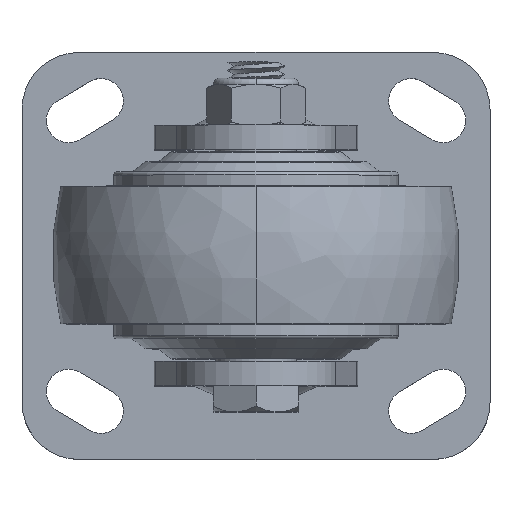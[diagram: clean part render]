
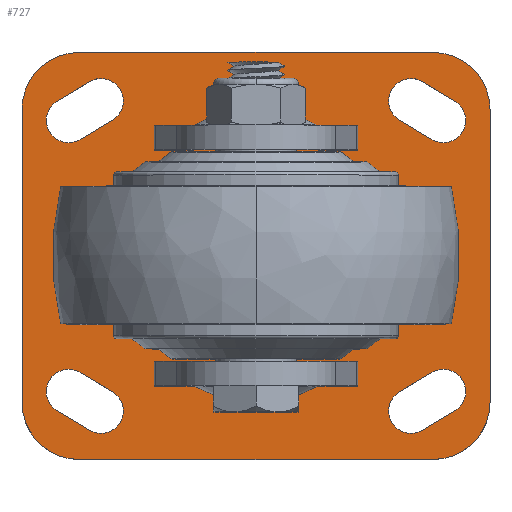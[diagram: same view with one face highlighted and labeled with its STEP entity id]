
A CAD part, top view. The second image highlights one B-rep face of the part: STEP entity #727.
In plain terms, the highlighted planar face has unit normal (0, 0, 1).
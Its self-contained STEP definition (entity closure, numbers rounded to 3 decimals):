
#165=DIRECTION('',(-1.,0.,0.));
#166=VECTOR('',#165,87.);
#167=CARTESIAN_POINT('',(43.5,50.,8.));
#168=LINE('',#167,#166);
#169=CARTESIAN_POINT('',(43.5,36.,8.));
#170=DIRECTION('',(0.,0.,1.));
#171=DIRECTION('',(1.,0.,0.));
#172=AXIS2_PLACEMENT_3D('',#169,#170,#171);
#174=DIRECTION('',(0.,1.,0.));
#175=VECTOR('',#174,72.);
#176=CARTESIAN_POINT('',(57.5,-36.,8.));
#177=LINE('',#176,#175);
#178=CARTESIAN_POINT('',(43.5,-36.,8.));
#179=DIRECTION('',(0.,0.,1.));
#180=DIRECTION('',(0.,-1.,0.));
#181=AXIS2_PLACEMENT_3D('',#178,#179,#180);
#183=DIRECTION('',(1.,0.,0.));
#184=VECTOR('',#183,87.);
#185=CARTESIAN_POINT('',(-43.5,-50.,8.));
#186=LINE('',#185,#184);
#187=CARTESIAN_POINT('',(-43.5,-36.,8.));
#188=DIRECTION('',(0.,0.,1.));
#189=DIRECTION('',(-1.,0.,0.));
#190=AXIS2_PLACEMENT_3D('',#187,#188,#189);
#192=DIRECTION('',(0.,-1.,0.));
#193=VECTOR('',#192,72.);
#194=CARTESIAN_POINT('',(-57.5,36.,8.));
#195=LINE('',#194,#193);
#196=CARTESIAN_POINT('',(-43.5,36.,8.));
#197=DIRECTION('',(0.,0.,1.));
#198=DIRECTION('',(0.,1.,0.));
#199=AXIS2_PLACEMENT_3D('',#196,#197,#198);
#201=CARTESIAN_POINT('',(46.038,33.338,8.));
#202=DIRECTION('',(0.,0.,-1.));
#203=DIRECTION('',(0.514,0.857,0.));
#204=AXIS2_PLACEMENT_3D('',#201,#202,#203);
#206=DIRECTION('',(0.857,-0.514,0.));
#207=VECTOR('',#206,9.257);
#208=CARTESIAN_POINT('',(40.93,42.816,8.));
#209=LINE('',#208,#207);
#210=CARTESIAN_POINT('',(38.1,38.1,8.));
#211=DIRECTION('',(0.,0.,-1.));
#212=DIRECTION('',(-0.514,-0.857,0.));
#213=AXIS2_PLACEMENT_3D('',#210,#211,#212);
#215=DIRECTION('',(-0.857,0.514,0.));
#216=VECTOR('',#215,9.257);
#217=CARTESIAN_POINT('',(43.208,28.621,8.));
#218=LINE('',#217,#216);
#219=DIRECTION('',(0.857,0.514,0.));
#220=VECTOR('',#219,9.257);
#221=CARTESIAN_POINT('',(-48.867,38.054,8.));
#222=LINE('',#221,#220);
#223=CARTESIAN_POINT('',(-46.038,33.338,8.));
#224=DIRECTION('',(0.,0.,-1.));
#225=DIRECTION('',(0.514,-0.857,0.));
#226=AXIS2_PLACEMENT_3D('',#223,#224,#225);
#228=DIRECTION('',(-0.857,-0.514,0.));
#229=VECTOR('',#228,9.257);
#230=CARTESIAN_POINT('',(-35.27,33.384,8.));
#231=LINE('',#230,#229);
#232=CARTESIAN_POINT('',(-38.1,38.1,8.));
#233=DIRECTION('',(0.,0.,-1.));
#234=DIRECTION('',(-0.514,0.857,0.));
#235=AXIS2_PLACEMENT_3D('',#232,#233,#234);
#237=DIRECTION('',(-0.857,0.514,0.));
#238=VECTOR('',#237,9.257);
#239=CARTESIAN_POINT('',(-40.93,-42.816,8.));
#240=LINE('',#239,#238);
#241=CARTESIAN_POINT('',(-38.1,-38.1,8.));
#242=DIRECTION('',(0.,0.,-1.));
#243=DIRECTION('',(0.514,0.857,0.));
#244=AXIS2_PLACEMENT_3D('',#241,#242,#243);
#246=DIRECTION('',(0.857,-0.514,0.));
#247=VECTOR('',#246,9.257);
#248=CARTESIAN_POINT('',(-43.208,-28.621,8.));
#249=LINE('',#248,#247);
#250=CARTESIAN_POINT('',(-46.038,-33.338,8.));
#251=DIRECTION('',(0.,0.,-1.));
#252=DIRECTION('',(-0.514,-0.857,0.));
#253=AXIS2_PLACEMENT_3D('',#250,#251,#252);
#255=DIRECTION('',(0.857,0.514,0.));
#256=VECTOR('',#255,9.257);
#257=CARTESIAN_POINT('',(35.27,-33.384,8.));
#258=LINE('',#257,#256);
#259=CARTESIAN_POINT('',(38.1,-38.1,8.));
#260=DIRECTION('',(0.,0.,-1.));
#261=DIRECTION('',(0.514,-0.857,0.));
#262=AXIS2_PLACEMENT_3D('',#259,#260,#261);
#264=DIRECTION('',(-0.857,-0.514,0.));
#265=VECTOR('',#264,9.257);
#266=CARTESIAN_POINT('',(48.867,-38.054,8.));
#267=LINE('',#266,#265);
#268=CARTESIAN_POINT('',(46.038,-33.338,8.));
#269=DIRECTION('',(0.,0.,-1.));
#270=DIRECTION('',(-0.514,0.857,0.));
#271=AXIS2_PLACEMENT_3D('',#268,#269,#270);
#385=CARTESIAN_POINT('',(43.5,50.,8.));
#386=CARTESIAN_POINT('',(-43.5,50.,8.));
#387=VERTEX_POINT('',#385);
#388=VERTEX_POINT('',#386);
#389=CARTESIAN_POINT('',(-57.5,36.,8.));
#390=VERTEX_POINT('',#389);
#391=CARTESIAN_POINT('',(-57.5,-36.,8.));
#392=VERTEX_POINT('',#391);
#393=CARTESIAN_POINT('',(-43.5,-50.,8.));
#394=VERTEX_POINT('',#393);
#395=CARTESIAN_POINT('',(43.5,-50.,8.));
#396=VERTEX_POINT('',#395);
#397=CARTESIAN_POINT('',(57.5,-36.,8.));
#398=VERTEX_POINT('',#397);
#399=CARTESIAN_POINT('',(57.5,36.,8.));
#400=VERTEX_POINT('',#399);
#401=CARTESIAN_POINT('',(48.867,38.054,8.));
#402=CARTESIAN_POINT('',(43.208,28.621,8.));
#403=VERTEX_POINT('',#401);
#404=VERTEX_POINT('',#402);
#405=CARTESIAN_POINT('',(35.27,33.384,8.));
#406=VERTEX_POINT('',#405);
#407=CARTESIAN_POINT('',(40.93,42.816,8.));
#408=VERTEX_POINT('',#407);
#409=CARTESIAN_POINT('',(-48.867,38.054,8.));
#410=CARTESIAN_POINT('',(-40.93,42.816,8.));
#411=VERTEX_POINT('',#409);
#412=VERTEX_POINT('',#410);
#413=CARTESIAN_POINT('',(-35.27,33.384,8.));
#414=VERTEX_POINT('',#413);
#415=CARTESIAN_POINT('',(-43.208,28.621,8.));
#416=VERTEX_POINT('',#415);
#417=CARTESIAN_POINT('',(-40.93,-42.816,8.));
#418=CARTESIAN_POINT('',(-48.867,-38.054,8.));
#419=VERTEX_POINT('',#417);
#420=VERTEX_POINT('',#418);
#421=CARTESIAN_POINT('',(-43.208,-28.621,8.));
#422=VERTEX_POINT('',#421);
#423=CARTESIAN_POINT('',(-35.27,-33.384,8.));
#424=VERTEX_POINT('',#423);
#425=CARTESIAN_POINT('',(35.27,-33.384,8.));
#426=CARTESIAN_POINT('',(43.208,-28.621,8.));
#427=VERTEX_POINT('',#425);
#428=VERTEX_POINT('',#426);
#429=CARTESIAN_POINT('',(48.867,-38.054,8.));
#430=VERTEX_POINT('',#429);
#431=CARTESIAN_POINT('',(40.93,-42.816,8.));
#432=VERTEX_POINT('',#431);
#672=CARTESIAN_POINT('',(0.,0.,8.));
#673=DIRECTION('',(0.,0.,1.));
#674=DIRECTION('',(1.,0.,0.));
#675=AXIS2_PLACEMENT_3D('',#672,#673,#674);
#676=PLANE('',#675);
#677=ORIENTED_EDGE('',*,*,#512,.F.);
#678=ORIENTED_EDGE('',*,*,#534,.F.);
#679=ORIENTED_EDGE('',*,*,#555,.F.);
#680=ORIENTED_EDGE('',*,*,#576,.F.);
#681=ORIENTED_EDGE('',*,*,#597,.F.);
#682=ORIENTED_EDGE('',*,*,#618,.F.);
#683=ORIENTED_EDGE('',*,*,#639,.F.);
#684=ORIENTED_EDGE('',*,*,#659,.F.);
#685=EDGE_LOOP('',(#677,#678,#679,#680,#681,#682,#683,#684));
#686=FACE_OUTER_BOUND('',#685,.F.);
#688=ORIENTED_EDGE('',*,*,#687,.F.);
#690=ORIENTED_EDGE('',*,*,#689,.F.);
#692=ORIENTED_EDGE('',*,*,#691,.F.);
#694=ORIENTED_EDGE('',*,*,#693,.F.);
#695=EDGE_LOOP('',(#688,#690,#692,#694));
#696=FACE_BOUND('',#695,.F.);
#698=ORIENTED_EDGE('',*,*,#697,.F.);
#700=ORIENTED_EDGE('',*,*,#699,.F.);
#702=ORIENTED_EDGE('',*,*,#701,.F.);
#704=ORIENTED_EDGE('',*,*,#703,.F.);
#705=EDGE_LOOP('',(#698,#700,#702,#704));
#706=FACE_BOUND('',#705,.F.);
#708=ORIENTED_EDGE('',*,*,#707,.F.);
#710=ORIENTED_EDGE('',*,*,#709,.F.);
#712=ORIENTED_EDGE('',*,*,#711,.F.);
#714=ORIENTED_EDGE('',*,*,#713,.F.);
#715=EDGE_LOOP('',(#708,#710,#712,#714));
#716=FACE_BOUND('',#715,.F.);
#718=ORIENTED_EDGE('',*,*,#717,.F.);
#720=ORIENTED_EDGE('',*,*,#719,.F.);
#722=ORIENTED_EDGE('',*,*,#721,.F.);
#724=ORIENTED_EDGE('',*,*,#723,.F.);
#725=EDGE_LOOP('',(#718,#720,#722,#724));
#726=FACE_BOUND('',#725,.F.);
#173=CIRCLE('',#172,14.);
#182=CIRCLE('',#181,14.);
#191=CIRCLE('',#190,14.);
#200=CIRCLE('',#199,14.);
#205=CIRCLE('',#204,5.5);
#214=CIRCLE('',#213,5.5);
#227=CIRCLE('',#226,5.5);
#236=CIRCLE('',#235,5.5);
#245=CIRCLE('',#244,5.5);
#254=CIRCLE('',#253,5.5);
#263=CIRCLE('',#262,5.5);
#272=CIRCLE('',#271,5.5);
#512=EDGE_CURVE('',#387,#388,#168,.T.);
#534=EDGE_CURVE('',#400,#387,#173,.T.);
#555=EDGE_CURVE('',#398,#400,#177,.T.);
#576=EDGE_CURVE('',#396,#398,#182,.T.);
#597=EDGE_CURVE('',#394,#396,#186,.T.);
#618=EDGE_CURVE('',#392,#394,#191,.T.);
#639=EDGE_CURVE('',#390,#392,#195,.T.);
#659=EDGE_CURVE('',#388,#390,#200,.T.);
#687=EDGE_CURVE('',#403,#404,#205,.T.);
#689=EDGE_CURVE('',#408,#403,#209,.T.);
#691=EDGE_CURVE('',#406,#408,#214,.T.);
#693=EDGE_CURVE('',#404,#406,#218,.T.);
#697=EDGE_CURVE('',#411,#412,#222,.T.);
#699=EDGE_CURVE('',#416,#411,#227,.T.);
#701=EDGE_CURVE('',#414,#416,#231,.T.);
#703=EDGE_CURVE('',#412,#414,#236,.T.);
#707=EDGE_CURVE('',#419,#420,#240,.T.);
#709=EDGE_CURVE('',#424,#419,#245,.T.);
#711=EDGE_CURVE('',#422,#424,#249,.T.);
#713=EDGE_CURVE('',#420,#422,#254,.T.);
#717=EDGE_CURVE('',#427,#428,#258,.T.);
#719=EDGE_CURVE('',#432,#427,#263,.T.);
#721=EDGE_CURVE('',#430,#432,#267,.T.);
#723=EDGE_CURVE('',#428,#430,#272,.T.);
#727=ADVANCED_FACE('',(#686,#696,#706,#716,#726),#676,.T.);
